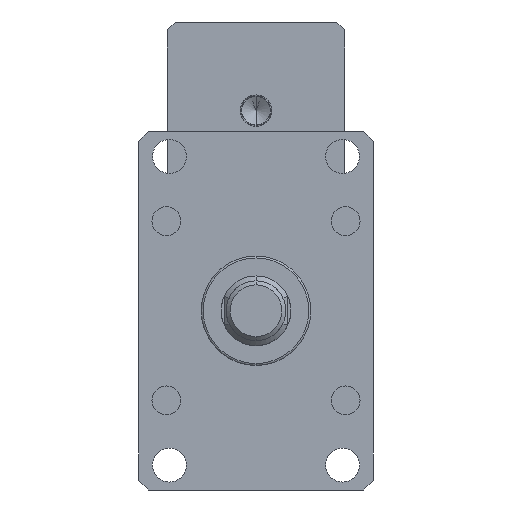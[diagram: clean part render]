
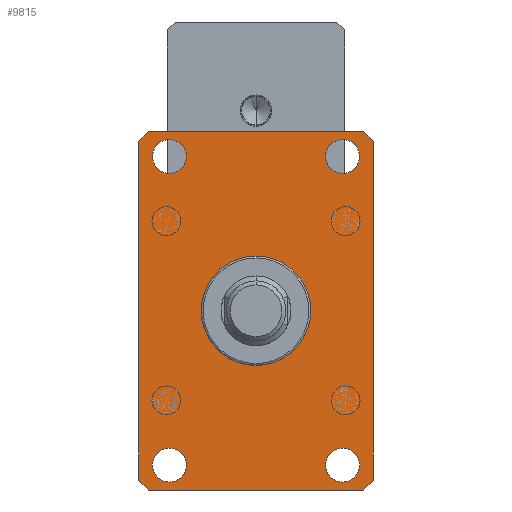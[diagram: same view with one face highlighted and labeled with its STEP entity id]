
A CAD part, front view. The second image highlights one B-rep face of the part: STEP entity #9815.
In plain terms, the highlighted planar face has unit normal (0, -1, 0).
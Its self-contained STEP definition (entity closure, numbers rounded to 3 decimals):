
#20 = EDGE_CURVE ( 'NONE', #10389, #2391, #10546, .T. ) ;
#113 = CIRCLE ( 'NONE', #2236, 8.5 ) ;
#134 = DIRECTION ( 'NONE',  ( 0.707, 0., 0.707 ) ) ;
#137 = CARTESIAN_POINT ( 'NONE',  ( 43.5, -55., -69. ) ) ;
#168 = DIRECTION ( 'NONE',  ( 0., 0., 1. ) ) ;
#340 = EDGE_LOOP ( 'NONE', ( #7000, #9654 ) ) ;
#397 = CARTESIAN_POINT ( 'NONE',  ( -54., -55., 90. ) ) ;
#502 = DIRECTION ( 'NONE',  ( 0., 0., -1. ) ) ;
#604 = ORIENTED_EDGE ( 'NONE', *, *, #8927, .T. ) ;
#802 = DIRECTION ( 'NONE',  ( 0., 0., -1. ) ) ;
#884 = DIRECTION ( 'NONE',  ( 0., 0., 1. ) ) ;
#963 = AXIS2_PLACEMENT_3D ( 'NONE', #1467, #8384, #2483 ) ;
#1056 = EDGE_CURVE ( 'NONE', #2391, #10389, #11521, .T. ) ;
#1141 = VERTEX_POINT ( 'NONE', #7570 ) ;
#1212 = FACE_BOUND ( 'NONE', #7624, .T. ) ;
#1467 = CARTESIAN_POINT ( 'NONE',  ( 43.5, -55., -77.5 ) ) ;
#1474 = ORIENTED_EDGE ( 'NONE', *, *, #10986, .T. ) ;
#1489 = AXIS2_PLACEMENT_3D ( 'NONE', #12658, #6814, #884 ) ;
#1496 = VECTOR ( 'NONE', #1915, 1000. ) ;
#1660 = AXIS2_PLACEMENT_3D ( 'NONE', #11189, #5355, #12172 ) ;
#1725 = CARTESIAN_POINT ( 'NONE',  ( -59., -55., -85. ) ) ;
#1824 = EDGE_CURVE ( 'NONE', #1141, #8792, #3225, .T. ) ;
#1915 = DIRECTION ( 'NONE',  ( 0.707, 0., -0.707 ) ) ;
#1975 = ORIENTED_EDGE ( 'NONE', *, *, #1824, .T. ) ;
#2112 = CARTESIAN_POINT ( 'NONE',  ( -54., -55., -90. ) ) ;
#2119 = EDGE_CURVE ( 'NONE', #8792, #4519, #4146, .T. ) ;
#2235 = DIRECTION ( 'NONE',  ( -0.707, 0., -0.707 ) ) ;
#2236 = AXIS2_PLACEMENT_3D ( 'NONE', #3506, #10362, #4505 ) ;
#2331 = LINE ( 'NONE', #397, #6975 ) ;
#2356 = EDGE_CURVE ( 'NONE', #7195, #4766, #11798, .T. ) ;
#2391 = VERTEX_POINT ( 'NONE', #2792 ) ;
#2432 = PLANE ( 'NONE',  #9344 ) ;
#2483 = DIRECTION ( 'NONE',  ( 0., 0., 1. ) ) ;
#2792 = CARTESIAN_POINT ( 'NONE',  ( -43.5, -55., 69. ) ) ;
#2867 = CARTESIAN_POINT ( 'NONE',  ( -59., -55., 85. ) ) ;
#2875 = ORIENTED_EDGE ( 'NONE', *, *, #2356, .T. ) ;
#3047 = ORIENTED_EDGE ( 'NONE', *, *, #5121, .T. ) ;
#3225 = LINE ( 'NONE', #2867, #12717 ) ;
#3244 = CARTESIAN_POINT ( 'NONE',  ( 54., -55., -90. ) ) ;
#3482 = AXIS2_PLACEMENT_3D ( 'NONE', #11968, #6121, #168 ) ;
#3486 = DIRECTION ( 'NONE',  ( 0., 1., 0. ) ) ;
#3506 = CARTESIAN_POINT ( 'NONE',  ( 43.5, -55., 77.5 ) ) ;
#3586 = CARTESIAN_POINT ( 'NONE',  ( -54., -55., -90. ) ) ;
#3833 = VERTEX_POINT ( 'NONE', #3244 ) ;
#3975 = VERTEX_POINT ( 'NONE', #7508 ) ;
#3998 = VECTOR ( 'NONE', #10596, 1000. ) ;
#4027 = CIRCLE ( 'NONE', #3482, 8.5 ) ;
#4067 = EDGE_CURVE ( 'NONE', #11585, #3975, #9406, .T. ) ;
#4146 = LINE ( 'NONE', #10734, #1496 ) ;
#4221 = EDGE_LOOP ( 'NONE', ( #3047, #7645, #1474, #2875, #12501, #10080, #1975, #11271 ) ) ;
#4238 = EDGE_LOOP ( 'NONE', ( #6432, #9403 ) ) ;
#4424 = EDGE_CURVE ( 'NONE', #6086, #10024, #6040, .T. ) ;
#4505 = DIRECTION ( 'NONE',  ( 0., 0., -1. ) ) ;
#4519 = VERTEX_POINT ( 'NONE', #2112 ) ;
#4550 = EDGE_CURVE ( 'NONE', #3833, #5210, #7087, .T. ) ;
#4766 = VERTEX_POINT ( 'NONE', #11311 ) ;
#5110 = VECTOR ( 'NONE', #8598, 1000. ) ;
#5121 = EDGE_CURVE ( 'NONE', #4519, #3833, #10384, .T. ) ;
#5210 = VERTEX_POINT ( 'NONE', #7721 ) ;
#5310 = LINE ( 'NONE', #8148, #10818 ) ;
#5355 = DIRECTION ( 'NONE',  ( 0., -1., 0. ) ) ;
#5464 = CARTESIAN_POINT ( 'NONE',  ( 59., -55., 85. ) ) ;
#5638 = CARTESIAN_POINT ( 'NONE',  ( 43.5, -55., 86. ) ) ;
#5732 = EDGE_LOOP ( 'NONE', ( #7990, #604 ) ) ;
#5907 = FACE_BOUND ( 'NONE', #4238, .T. ) ;
#5946 = CARTESIAN_POINT ( 'NONE',  ( -43.5, -55., -77.5 ) ) ;
#5974 = EDGE_CURVE ( 'NONE', #8411, #1141, #5310, .T. ) ;
#6040 = CIRCLE ( 'NONE', #7772, 8.5 ) ;
#6086 = VERTEX_POINT ( 'NONE', #10741 ) ;
#6121 = DIRECTION ( 'NONE',  ( 0., 1., 0. ) ) ;
#6181 = FACE_BOUND ( 'NONE', #5732, .T. ) ;
#6432 = ORIENTED_EDGE ( 'NONE', *, *, #4067, .F. ) ;
#6447 = DIRECTION ( 'NONE',  ( 0., -1., 0. ) ) ;
#6739 = DIRECTION ( 'NONE',  ( 0., -1., 0. ) ) ;
#6814 = DIRECTION ( 'NONE',  ( 0., 1., 0. ) ) ;
#6919 = DIRECTION ( 'NONE',  ( 0., 0., 1. ) ) ;
#6975 = VECTOR ( 'NONE', #7200, 1000. ) ;
#7000 = ORIENTED_EDGE ( 'NONE', *, *, #20, .F. ) ;
#7077 = CARTESIAN_POINT ( 'NONE',  ( 54., -55., -90. ) ) ;
#7087 = LINE ( 'NONE', #7077, #12290 ) ;
#7195 = VERTEX_POINT ( 'NONE', #5464 ) ;
#7200 = DIRECTION ( 'NONE',  ( -1., 0., 0. ) ) ;
#7508 = CARTESIAN_POINT ( 'NONE',  ( 43.5, -55., 69. ) ) ;
#7542 = DIRECTION ( 'NONE',  ( 1., 0., 0. ) ) ;
#7570 = CARTESIAN_POINT ( 'NONE',  ( -59., -55., 85. ) ) ;
#7624 = EDGE_LOOP ( 'NONE', ( #7749, #11080 ) ) ;
#7645 = ORIENTED_EDGE ( 'NONE', *, *, #4550, .T. ) ;
#7721 = CARTESIAN_POINT ( 'NONE',  ( 59., -55., -85. ) ) ;
#7749 = ORIENTED_EDGE ( 'NONE', *, *, #11233, .T. ) ;
#7772 = AXIS2_PLACEMENT_3D ( 'NONE', #5946, #12756, #6919 ) ;
#7804 = VECTOR ( 'NONE', #7542, 1000. ) ;
#7990 = ORIENTED_EDGE ( 'NONE', *, *, #4424, .T. ) ;
#8147 = CIRCLE ( 'NONE', #963, 8.5 ) ;
#8148 = CARTESIAN_POINT ( 'NONE',  ( -59., -55., 85. ) ) ;
#8382 = CARTESIAN_POINT ( 'NONE',  ( 59., -55., -90. ) ) ;
#8384 = DIRECTION ( 'NONE',  ( 0., 1., 0. ) ) ;
#8411 = VERTEX_POINT ( 'NONE', #8555 ) ;
#8505 = FACE_BOUND ( 'NONE', #340, .T. ) ;
#8555 = CARTESIAN_POINT ( 'NONE',  ( -54., -55., 90. ) ) ;
#8598 = DIRECTION ( 'NONE',  ( 0., 0., 1. ) ) ;
#8647 = EDGE_CURVE ( 'NONE', #4766, #8411, #2331, .T. ) ;
#8792 = VERTEX_POINT ( 'NONE', #1725 ) ;
#8803 = CARTESIAN_POINT ( 'NONE',  ( -43.5, -55., -86. ) ) ;
#8927 = EDGE_CURVE ( 'NONE', #10024, #6086, #12636, .T. ) ;
#9014 = VERTEX_POINT ( 'NONE', #11802 ) ;
#9344 = AXIS2_PLACEMENT_3D ( 'NONE', #8382, #3486, #10337 ) ;
#9403 = ORIENTED_EDGE ( 'NONE', *, *, #10190, .F. ) ;
#9406 = CIRCLE ( 'NONE', #11520, 8.5 ) ;
#9571 = CARTESIAN_POINT ( 'NONE',  ( 59., -55., 85. ) ) ;
#9606 = CARTESIAN_POINT ( 'NONE',  ( 54., -55., 90. ) ) ;
#9620 = VERTEX_POINT ( 'NONE', #137 ) ;
#9654 = ORIENTED_EDGE ( 'NONE', *, *, #1056, .F. ) ;
#9815 = ADVANCED_FACE ( 'NONE', ( #8505, #1212, #6181, #11062, #5907 ), #2432, .F. ) ;
#9913 = AXIS2_PLACEMENT_3D ( 'NONE', #12285, #6447, #502 ) ;
#10024 = VERTEX_POINT ( 'NONE', #8803 ) ;
#10080 = ORIENTED_EDGE ( 'NONE', *, *, #5974, .T. ) ;
#10190 = EDGE_CURVE ( 'NONE', #3975, #11585, #113, .T. ) ;
#10337 = DIRECTION ( 'NONE',  ( 0., 0., 1. ) ) ;
#10362 = DIRECTION ( 'NONE',  ( 0., -1., 0. ) ) ;
#10384 = LINE ( 'NONE', #3586, #7804 ) ;
#10389 = VERTEX_POINT ( 'NONE', #10704 ) ;
#10546 = CIRCLE ( 'NONE', #1660, 8.5 ) ;
#10596 = DIRECTION ( 'NONE',  ( -0.707, 0., 0.707 ) ) ;
#10704 = CARTESIAN_POINT ( 'NONE',  ( -43.5, -55., 86. ) ) ;
#10734 = CARTESIAN_POINT ( 'NONE',  ( -59., -55., -85. ) ) ;
#10741 = CARTESIAN_POINT ( 'NONE',  ( -43.5, -55., -69. ) ) ;
#10745 = DIRECTION ( 'NONE',  ( 0., 0., -1. ) ) ;
#10818 = VECTOR ( 'NONE', #2235, 1000. ) ;
#10986 = EDGE_CURVE ( 'NONE', #5210, #7195, #11966, .T. ) ;
#11062 = FACE_OUTER_BOUND ( 'NONE', #4221, .T. ) ;
#11080 = ORIENTED_EDGE ( 'NONE', *, *, #11661, .T. ) ;
#11189 = CARTESIAN_POINT ( 'NONE',  ( -43.5, -55., 77.5 ) ) ;
#11233 = EDGE_CURVE ( 'NONE', #9620, #9014, #4027, .T. ) ;
#11271 = ORIENTED_EDGE ( 'NONE', *, *, #2119, .T. ) ;
#11311 = CARTESIAN_POINT ( 'NONE',  ( 54., -55., 90. ) ) ;
#11520 = AXIS2_PLACEMENT_3D ( 'NONE', #12581, #6739, #802 ) ;
#11521 = CIRCLE ( 'NONE', #9913, 8.5 ) ;
#11585 = VERTEX_POINT ( 'NONE', #5638 ) ;
#11661 = EDGE_CURVE ( 'NONE', #9014, #9620, #8147, .T. ) ;
#11798 = LINE ( 'NONE', #9606, #3998 ) ;
#11802 = CARTESIAN_POINT ( 'NONE',  ( 43.5, -55., -86. ) ) ;
#11966 = LINE ( 'NONE', #9571, #5110 ) ;
#11968 = CARTESIAN_POINT ( 'NONE',  ( 43.5, -55., -77.5 ) ) ;
#12172 = DIRECTION ( 'NONE',  ( 0., 0., -1. ) ) ;
#12285 = CARTESIAN_POINT ( 'NONE',  ( -43.5, -55., 77.5 ) ) ;
#12290 = VECTOR ( 'NONE', #134, 1000. ) ;
#12501 = ORIENTED_EDGE ( 'NONE', *, *, #8647, .T. ) ;
#12581 = CARTESIAN_POINT ( 'NONE',  ( 43.5, -55., 77.5 ) ) ;
#12636 = CIRCLE ( 'NONE', #1489, 8.5 ) ;
#12658 = CARTESIAN_POINT ( 'NONE',  ( -43.5, -55., -77.5 ) ) ;
#12717 = VECTOR ( 'NONE', #10745, 1000. ) ;
#12756 = DIRECTION ( 'NONE',  ( 0., 1., 0. ) ) ;
